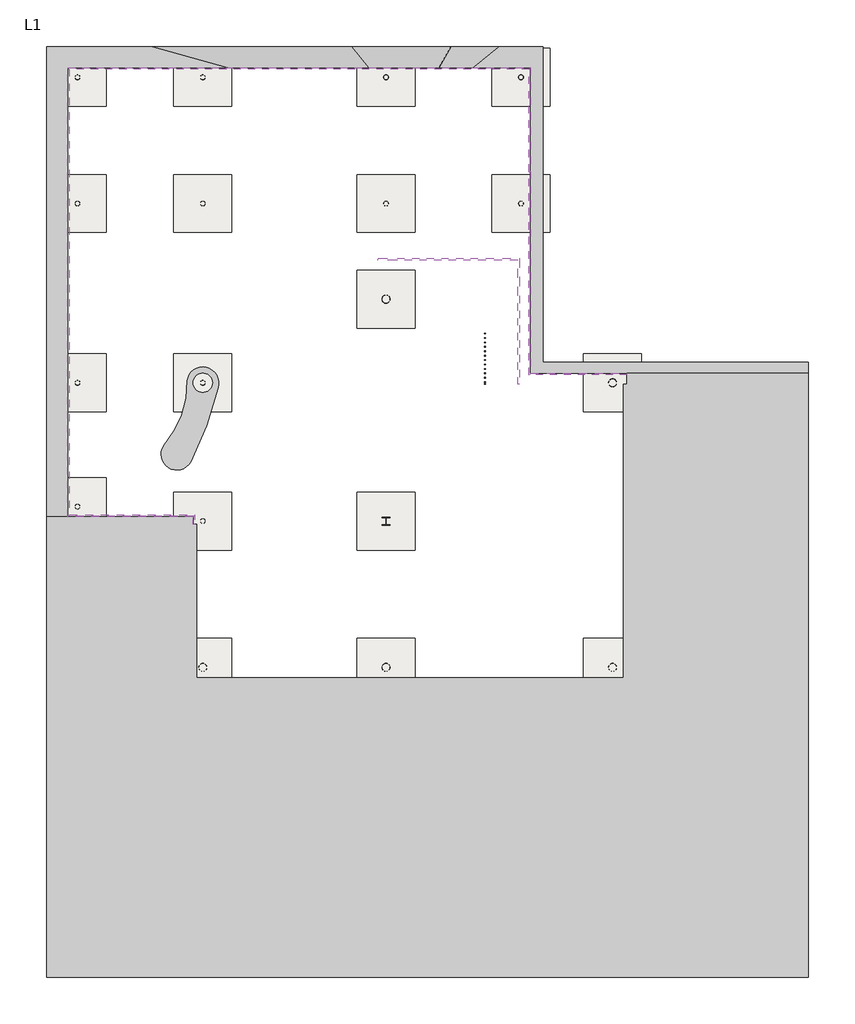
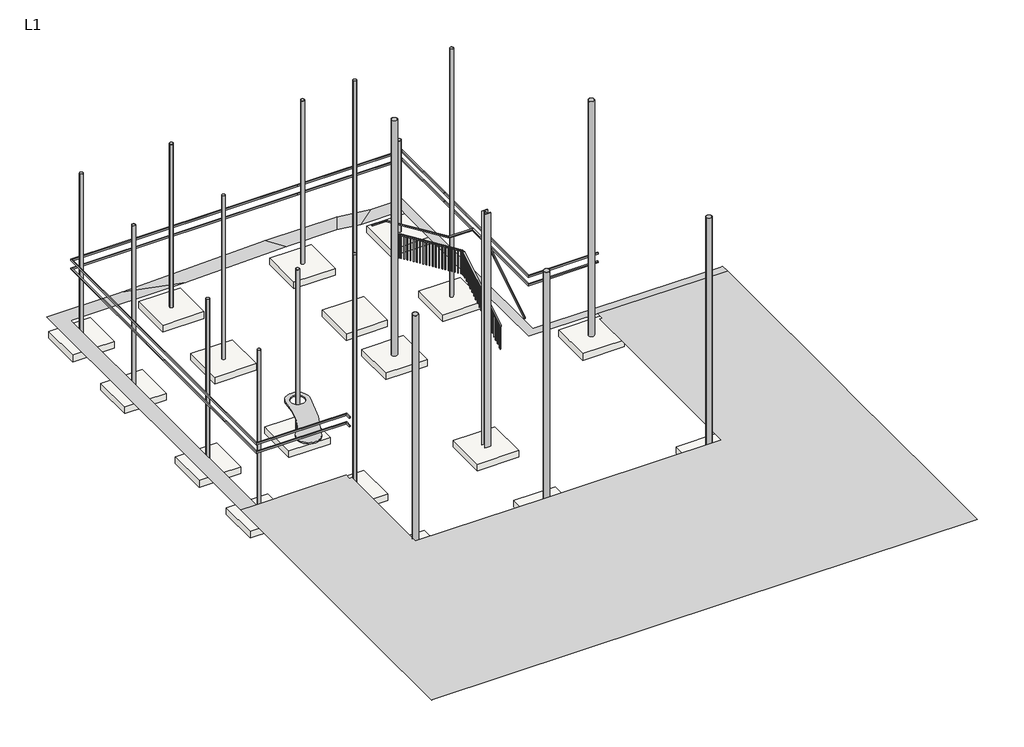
# One storey: 18 columns, 18 proxies, 18 slabs, 2 railings, 1 furniture element.
"""IFC4 building model written with IfcOpenShell, lengths in millimetres."""

from ifc_helpers import new_model, si_unit, frame, origin, place, context, project, spatial, polyline, outline, extrude, triangles, transform, mapped, element, save
from components import hss_round_hollow_structural_section_column_hss10x0_375_e5a783f9, hss_round_hollow_structural_section_column_hss6x0_375_dd265ae1, hss_round_hollow_structural_section_column_hss6x0_375_0e3342be, hss_round_hollow_structural_section_column_hss6x0_375_fb263522, hss_round_hollow_structural_section_column_hss6x0_375_acaf1047, w_wide_flange_column_w10x49_891e5d90, reception_desk_reception_desk_e332c73f, railing_1100mm_f1d3f54a, railing_1100mm_wall_hosted_fa47f578, footing_rectangular_cf6_0_e8c3e57f

model = new_model("IFC4")

# Units and contexts
model_context = context("Model", 3, world=origin())
ifc_project = project(units=[si_unit("LENGTHUNIT", "METRE", prefix="MILLI")], contexts=[model_context])

# Site, building, storey
site = spatial("IfcSite", under=ifc_project)
building = spatial("IfcBuilding", under=site)
storey = spatial("IfcBuildingStorey", under=building, Name="L1", Elevation=45720.0)

# Proxies
placement = place(None, origin())
element("IfcBuildingElementProxy", 1, Name="Building Element Proxy", at=placement, inside=storey, context=model_context, shape_type="Tessellation", body=[
    triangles([(-14938.2288849, -3075.3747826, 45769.6388306), (-14264.2316528, -3075.3747826, 45772.2107666), (-14264.2316528, -1088.5216393, 45778.68479), (-14264.2316528, 2184.8701263, 45787.4563477), (-14264.2316528, 4251.2335327, 45789.9538696), (-14264.2316528, 11107.3499268, 45774.0618164), (-9208.7803482, 11107.3499268, 45770.8015503), (-4742.1724617, 11107.3499268, 45897.1612793), (-2525.7676323, 11107.3499268, 45901.3656738), (-1455.9032845, 11107.3499268, 45774.2338989), (366.1687105, 11107.3499268, 45771.5596436), (366.1687105, 10915.3581573, 45770.8015503), (366.1687105, 8743.3482925, 45756.3838257), (366.1687105, 4976.9898148, 45776.9360596), (366.1687105, 3074.1085808, 45782.2008545), (366.1687105, 1461.1977287, 45780.1312134), (366.1687105, 1450.7640633, 45780.0847046), (377.9066568, 1450.7640633, 45780.070752), (3414.1686378, 1450.7640633, 45768.5226196), (4502.3618088, 1450.7640633, 45764.3833374), (9140.9711151, 1450.7640633, 45739.3616089), (9140.9711151, 1803.1890633, 45738.3849243), (3604.4020844, 1803.1890633, 45768.2528687), (758.9712605, 1803.1890633, 45779.0754639), (758.9712605, 2919.9441536, 45780.5125854), (758.9712605, 5052.8747177, 45774.6059692), (758.9712605, 8665.1617859, 45754.8955444), (758.9712605, 11061.46203, 45770.8015503), (758.9712605, 11773.3104401, 45773.6106812), (-634.5518927, 11773.3104401, 45775.6570679), (-2147.8218063, 11773.3104401, 45955.4833008), (-5282.8159149, 11773.3104401, 45949.5301758), (-11600.6105164, 11773.3104401, 45770.8015503), (-14938.2288849, 11773.3104401, 45772.9549072), (-14938.2288849, 5032.5556091, 45788.5772095), (-14938.2288849, 2511.0714363, 45785.5262329), (-14938.2288849, -1483.2915836, 45774.8292114)], [[37, 1, 2], [35, 36, 5], [37, 3, 36], [4, 36, 3], [7, 33, 6], [5, 36, 4], [3, 37, 2], [5, 6, 35], [33, 34, 6], [7, 32, 33], [6, 34, 35], [8, 9, 31], [31, 32, 8], [31, 9, 10], [10, 30, 31], [8, 32, 7], [17, 18, 16], [16, 24, 15], [24, 16, 18], [18, 19, 24], [20, 21, 22], [20, 23, 19], [23, 20, 22], [19, 23, 24], [13, 14, 27], [30, 10, 11], [12, 13, 27], [11, 12, 28], [14, 15, 26], [25, 26, 15], [29, 11, 28], [12, 27, 28], [14, 26, 27], [15, 24, 25], [11, 29, 30]], closed=False),
])
element("IfcBuildingElementProxy", 2, Name="Building Element Proxy", at=placement, inside=storey, context=model_context, shape_type="Tessellation", body=[
    triangles([(-14938.2288849, -17638.8082306, 45732.6782959), (-14928.8248077, -17638.8082306, 45732.7015503), (1262.9813393, -17638.8082306, 45732.7015503), (9140.9711151, -17638.8082306, 45727.6692993), (9140.9711151, -14295.842514, 45732.7015503), (9140.9711151, -8053.5514435, 45732.7015503), (9140.9711151, -7307.9707901, 45732.7015503), (9140.9711151, -6338.6264694, 45736.7292114), (9140.9711151, -369.7655477, 45744.4031616), (9140.9711151, 1450.7640633, 45739.3616089), (4502.3618088, 1450.7640633, 45764.3833374), (3414.1686378, 1450.7640633, 45768.5226196), (3414.1686378, 1100.7639879, 45768.0714844), (3301.4563316, 1100.7639879, 45768.5040161), (3301.4563316, -1147.9467184, 45765.6111694), (3301.4563316, -8172.8371857, 45736.4176025), (-2489.5785622, -8172.8371857, 45743.6683228), (-4408.8669342, -8172.8371857, 45747.1471802), (-10189.1187653, -8172.8371857, 45752.5747559), (-10189.1187653, -3321.4373795, 45775.8942627), (-10301.8316528, -3321.4373795, 45776.0012329), (-10301.8316528, -3075.3747826, 45777.1825562), (-12435.5397858, -3075.3747826, 45779.187085), (-14264.2316528, -3075.3747826, 45772.2107666), (-14938.2288849, -3075.3747826, 45769.6388306), (-14938.2288849, -10756.0423004, 45744.6124512), (-14938.2288849, -13234.14104, 45732.7015503), (-14938.2288849, -17593.1110199, 45732.7015503), (-2407.4488369, -10787.3020203, 45732.7015503)], [[19, 27, 29], [2, 28, 1], [26, 27, 19], [27, 28, 29], [29, 17, 18], [29, 28, 2], [29, 18, 19], [25, 26, 24], [23, 24, 19], [21, 19, 20], [19, 21, 23], [21, 22, 23], [26, 19, 24], [29, 3, 16], [3, 29, 2], [16, 3, 5], [4, 5, 3], [6, 7, 16], [5, 6, 16], [16, 7, 8], [14, 15, 13], [12, 13, 11], [15, 11, 13], [9, 11, 15], [10, 11, 9], [9, 15, 8], [15, 16, 8], [29, 16, 17]], closed=False),
])
element("IfcBuildingElementProxy", 3, Name="Reveals", at=placement, inside=storey, context=model_context, shape_type="SweptSolid", body=[
    extrude(outline(polyline([(-14213.4313072, -3024.5748862), (-14264.2313072, -3075.3748862), (-14264.2313072, 11107.3501138), (-14213.4313072, 11056.5501138), (-14213.4313072, -3024.5748862)])), frame((0.0, 0.0, 48570.0), z_axis=(0.0, 0.0, 1.0), x_axis=(1.0, 0.0, 0.0)), (0.0, 0.0, 1.0), 63.5),
])
element("IfcBuildingElementProxy", 4, Name="Reveals", at=placement, inside=storey, context=model_context, shape_type="SweptSolid", body=[
    extrude(outline(polyline([(-14213.4313072, 11056.5501138), (-14264.2313072, 11107.3501138), (-4286.5563072, 11107.3501138), (-4286.5563072, 11056.5501138), (-14213.4313072, 11056.5501138)])), frame((0.0, 0.0, 48570.0), z_axis=(0.0, 0.0, 1.0), x_axis=(1.0, 0.0, 0.0)), (0.0, 0.0, 1.0), 63.5),
])
element("IfcBuildingElementProxy", 5, Name="Reveals", at=placement, inside=storey, context=model_context, shape_type="SweptSolid", body=[
    extrude(outline(polyline([(315.3686928, 7819.4001138), (366.1686928, 7819.4001138), (366.1686928, 1450.7640027), (315.3686928, 1399.9640027), (315.3686928, 7819.4001138)])), frame((0.0, 0.0, 48570.0), z_axis=(0.0, 0.0, 1.0), x_axis=(1.0, 0.0, 0.0)), (0.0, 0.0, 1.0), 63.5),
])
element("IfcBuildingElementProxy", 6, Name="Reveals", at=placement, inside=storey, context=model_context, shape_type="SweptSolid", body=[
    extrude(outline(polyline([(315.3686928, 1399.9640027), (366.1686928, 1450.7640027), (3414.1686928, 1450.7640027), (3414.1686928, 1399.9640027), (315.3686928, 1399.9640027)])), frame((0.0, 0.0, 48570.0), z_axis=(0.0, 0.0, 1.0), x_axis=(1.0, 0.0, 0.0)), (0.0, 0.0, 1.0), 63.5),
])
element("IfcBuildingElementProxy", 7, Name="Reveals", at=placement, inside=storey, context=model_context, shape_type="SweptSolid", body=[
    extrude(outline(polyline([(-10251.0313072, -3321.4373862), (-10301.8313072, -3321.4373862), (-10301.8313072, -3075.3748862), (-10251.0313072, -3024.5748862), (-10251.0313072, -3321.4373862)])), frame((0.0, 0.0, 48570.0), z_axis=(0.0, 0.0, 1.0), x_axis=(1.0, 0.0, 0.0)), (0.0, 0.0, 1.0), 63.5),
])
element("IfcBuildingElementProxy", 8, Name="Reveals", at=placement, inside=storey, context=model_context, shape_type="SweptSolid", body=[
    extrude(outline(polyline([(-10251.0313072, -3024.5748862), (-10301.8313072, -3075.3748862), (-14264.2313072, -3075.3748862), (-14213.4313072, -3024.5748862), (-10251.0313072, -3024.5748862)])), frame((0.0, 0.0, 48570.0), z_axis=(0.0, 0.0, 1.0), x_axis=(1.0, 0.0, 0.0)), (0.0, 0.0, 1.0), 63.5),
])
element("IfcBuildingElementProxy", 9, Name="Reveals", at=placement, inside=storey, context=model_context, shape_type="SweptSolid", body=[
    extrude(outline(polyline([(-14213.4313072, -3024.5748862), (-14264.2313072, -3075.3748862), (-14264.2313072, 11107.3501138), (-14213.4313072, 11056.5501138), (-14213.4313072, -3024.5748862)])), frame((0.0, 0.0, 48170.0), z_axis=(0.0, 0.0, 1.0), x_axis=(1.0, 0.0, 0.0)), (0.0, 0.0, 1.0), 63.5),
])
element("IfcBuildingElementProxy", 10, Name="Reveals", at=placement, inside=storey, context=model_context, shape_type="SweptSolid", body=[
    extrude(outline(polyline([(-14213.4313072, 11056.5501138), (-14264.2313072, 11107.3501138), (-4286.5563072, 11107.3501138), (-4286.5563072, 11056.5501138), (-14213.4313072, 11056.5501138)])), frame((0.0, 0.0, 48170.0), z_axis=(0.0, 0.0, 1.0), x_axis=(1.0, 0.0, 0.0)), (0.0, 0.0, 1.0), 63.5),
])
element("IfcBuildingElementProxy", 11, Name="Reveals", at=placement, inside=storey, context=model_context, shape_type="SweptSolid", body=[
    extrude(outline(polyline([(315.3686928, 7819.4001138), (366.1686928, 7819.4001138), (366.1686928, 1450.7640027), (315.3686928, 1399.9640027), (315.3686928, 7819.4001138)])), frame((0.0, 0.0, 48170.0), z_axis=(0.0, 0.0, 1.0), x_axis=(1.0, 0.0, 0.0)), (0.0, 0.0, 1.0), 63.5),
])
element("IfcBuildingElementProxy", 12, Name="Reveals", at=placement, inside=storey, context=model_context, shape_type="SweptSolid", body=[
    extrude(outline(polyline([(315.3686928, 1399.9640027), (366.1686928, 1450.7640027), (3414.1686928, 1450.7640027), (3414.1686928, 1399.9640027), (315.3686928, 1399.9640027)])), frame((0.0, 0.0, 48170.0), z_axis=(0.0, 0.0, 1.0), x_axis=(1.0, 0.0, 0.0)), (0.0, 0.0, 1.0), 63.5),
])
element("IfcBuildingElementProxy", 13, Name="Reveals", at=placement, inside=storey, context=model_context, shape_type="SweptSolid", body=[
    extrude(outline(polyline([(-10251.0313072, -3321.4373862), (-10301.8313072, -3321.4373862), (-10301.8313072, -3075.3748862), (-10251.0313072, -3024.5748862), (-10251.0313072, -3321.4373862)])), frame((0.0, 0.0, 48170.0), z_axis=(0.0, 0.0, 1.0), x_axis=(1.0, 0.0, 0.0)), (0.0, 0.0, 1.0), 63.5),
])
element("IfcBuildingElementProxy", 14, Name="Reveals", at=placement, inside=storey, context=model_context, shape_type="SweptSolid", body=[
    extrude(outline(polyline([(-10251.0313072, -3024.5748862), (-10301.8313072, -3075.3748862), (-14264.2313072, -3075.3748862), (-14213.4313072, -3024.5748862), (-10251.0313072, -3024.5748862)])), frame((0.0, 0.0, 48170.0), z_axis=(0.0, 0.0, 1.0), x_axis=(1.0, 0.0, 0.0)), (0.0, 0.0, 1.0), 63.5),
])
element("IfcBuildingElementProxy", 15, Name="Reveals", at=placement, inside=storey, context=model_context, shape_type="SweptSolid", body=[
    extrude(outline(polyline([(-4286.5563072, 11056.5501138), (-4286.5563072, 11107.3501138), (366.1686928, 11107.3501138), (315.3686928, 11056.5501138), (-4286.5563072, 11056.5501138)])), frame((0.0, 0.0, 48570.0), z_axis=(0.0, 0.0, 1.0), x_axis=(1.0, 0.0, 0.0)), (0.0, 0.0, 1.0), 63.5),
])
element("IfcBuildingElementProxy", 16, Name="Reveals", at=placement, inside=storey, context=model_context, shape_type="SweptSolid", body=[
    extrude(outline(polyline([(315.3686928, 11056.5501138), (366.1686928, 11107.3501138), (366.1686928, 7819.4001138), (315.3686928, 7819.4001138), (315.3686928, 11056.5501138)])), frame((0.0, 0.0, 48570.0), z_axis=(0.0, 0.0, 1.0), x_axis=(1.0, 0.0, 0.0)), (0.0, 0.0, 1.0), 63.5),
])
element("IfcBuildingElementProxy", 17, Name="Reveals", at=placement, inside=storey, context=model_context, shape_type="SweptSolid", body=[
    extrude(outline(polyline([(-4286.5563072, 11056.5501138), (-4286.5563072, 11107.3501138), (366.1686928, 11107.3501138), (315.3686928, 11056.5501138), (-4286.5563072, 11056.5501138)])), frame((0.0, 0.0, 48170.0), z_axis=(0.0, 0.0, 1.0), x_axis=(1.0, 0.0, 0.0)), (0.0, 0.0, 1.0), 63.5),
])
element("IfcBuildingElementProxy", 18, Name="Reveals", at=placement, inside=storey, context=model_context, shape_type="SweptSolid", body=[
    extrude(outline(polyline([(315.3686928, 11056.5501138), (366.1686928, 11107.3501138), (366.1686928, 7819.4001138), (315.3686928, 7819.4001138), (315.3686928, 11056.5501138)])), frame((0.0, 0.0, 48170.0), z_axis=(0.0, 0.0, 1.0), x_axis=(1.0, 0.0, 0.0)), (0.0, 0.0, 1.0), 63.5),
])

# Columns
hss_round_hollow_structural_section_column_hss10x0_375_shape = hss_round_hollow_structural_section_column_hss10x0_375_e5a783f9(model_context)
element("IfcColumn", 19, ObjectType="HSS-Round Hollow Structural Section-Column : HSS10X0.375", at=placement, inside=storey, context=model_context, shape_type="MappedRepresentation", body=[
    mapped(hss_round_hollow_structural_section_column_hss10x0_375_shape, transform((-9997.0313072, -7842.5381675, 0.0), x_axis=(-1.0, 0.0, 0.0), y_axis=(0.0, -1.0, 0.0), z_axis=(0.0, 0.0, 1.0))),
])
element("IfcColumn", 20, ObjectType="HSS-Round Hollow Structural Section-Column : HSS10X0.375", at=placement, inside=storey, context=model_context, shape_type="MappedRepresentation", body=[
    mapped(hss_round_hollow_structural_section_column_hss10x0_375_shape, transform((-4205.8313072, 3790.6992317, 0.0), x_axis=(-1.0, 0.0, 0.0), y_axis=(0.0, -1.0, 0.0), z_axis=(0.0, 0.0, 1.0))),
])
element("IfcColumn", 21, ObjectType="HSS-Round Hollow Structural Section-Column : HSS10X0.375", at=placement, inside=storey, context=model_context, shape_type="MappedRepresentation", body=[
    mapped(hss_round_hollow_structural_section_column_hss10x0_375_shape, transform((-4205.8313072, -7842.5381675, 0.0), x_axis=(-1.0, 0.0, 0.0), y_axis=(0.0, -1.0, 0.0), z_axis=(0.0, 0.0, 1.0))),
])
element("IfcColumn", 22, ObjectType="HSS-Round Hollow Structural Section-Column : HSS10X0.375", at=placement, inside=storey, context=model_context, shape_type="MappedRepresentation", body=[
    mapped(hss_round_hollow_structural_section_column_hss10x0_375_shape, transform((2956.9686928, 1149.0992317, 0.0), x_axis=(-1.0, 0.0, 0.0), y_axis=(0.0, -1.0, 0.0), z_axis=(0.0, 0.0, 1.0))),
])
element("IfcColumn", 23, ObjectType="HSS-Round Hollow Structural Section-Column : HSS10X0.375", at=placement, inside=storey, context=model_context, shape_type="MappedRepresentation", body=[
    mapped(hss_round_hollow_structural_section_column_hss10x0_375_shape, transform((2956.9686928, -7842.5381675, 0.0), x_axis=(-1.0, 0.0, 0.0), y_axis=(0.0, -1.0, 0.0), z_axis=(0.0, 0.0, 1.0))),
])
hss_round_hollow_structural_section_column_hss6x0_375_shape = hss_round_hollow_structural_section_column_hss6x0_375_dd265ae1(model_context)
element("IfcColumn", 24, ObjectType="HSS-Round Hollow Structural Section-Column : HSS6X0.375", at=placement, inside=storey, context=model_context, shape_type="MappedRepresentation", body=[
    mapped(hss_round_hollow_structural_section_column_hss6x0_375_shape, transform((-13959.4313072, 10801.0618325, 0.0), x_axis=(-1.0, 0.0, 0.0), y_axis=(0.0, -1.0, 0.0), z_axis=(0.0, 0.0, 1.0))),
])
element("IfcColumn", 25, ObjectType="HSS-Round Hollow Structural Section-Column : HSS6X0.375", at=placement, inside=storey, context=model_context, shape_type="MappedRepresentation", body=[
    mapped(hss_round_hollow_structural_section_column_hss6x0_375_shape, transform((-13959.4313072, 1149.0992317, 0.0), x_axis=(-1.0, 0.0, 0.0), y_axis=(0.0, -1.0, 0.0), z_axis=(0.0, 0.0, 1.0))),
])
element("IfcColumn", 26, ObjectType="HSS-Round Hollow Structural Section-Column : HSS6X0.375", at=placement, inside=storey, context=model_context, shape_type="MappedRepresentation", body=[
    mapped(hss_round_hollow_structural_section_column_hss6x0_375_shape, transform((-13959.4313072, -2762.5381675, 0.0), x_axis=(-1.0, 0.0, 0.0), y_axis=(0.0, -1.0, 0.0), z_axis=(0.0, 0.0, 1.0))),
])
element("IfcColumn", 27, ObjectType="HSS-Round Hollow Structural Section-Column : HSS6X0.375", at=placement, inside=storey, context=model_context, shape_type="MappedRepresentation", body=[
    mapped(hss_round_hollow_structural_section_column_hss6x0_375_shape, transform((-9997.0313072, 10801.0618325, 0.0), x_axis=(-1.0, 0.0, 0.0), y_axis=(0.0, -1.0, 0.0), z_axis=(0.0, 0.0, 1.0))),
])
element("IfcColumn", 28, ObjectType="HSS-Round Hollow Structural Section-Column : HSS6X0.375", at=placement, inside=storey, context=model_context, shape_type="MappedRepresentation", body=[
    mapped(hss_round_hollow_structural_section_column_hss6x0_375_shape, transform((-9997.0313072, 1149.0992317, 0.0), x_axis=(-1.0, 0.0, 0.0), y_axis=(0.0, -1.0, 0.0), z_axis=(0.0, 0.0, 1.0))),
])
element("IfcColumn", 29, ObjectType="HSS-Round Hollow Structural Section-Column : HSS6X0.375", at=placement, inside=storey, context=model_context, shape_type="MappedRepresentation", body=[
    mapped(hss_round_hollow_structural_section_column_hss6x0_375_shape, transform((-4205.8313072, 10801.0618325, 0.0), x_axis=(-1.0, 0.0, 0.0), y_axis=(0.0, -1.0, 0.0), z_axis=(0.0, 0.0, 1.0))),
])
element("IfcColumn", 30, ObjectType="HSS-Round Hollow Structural Section-Column : HSS6X0.375", at=placement, inside=storey, context=model_context, shape_type="MappedRepresentation", body=[
    mapped(hss_round_hollow_structural_section_column_hss6x0_375_shape, transform((-13959.4313072, 6813.2618325, 0.0), x_axis=(-1.0, 0.0, 0.0), y_axis=(0.0, -1.0, 0.0), z_axis=(0.0, 0.0, 1.0))),
])
element("IfcColumn", 31, ObjectType="HSS-Round Hollow Structural Section-Column : HSS6X0.375", at=placement, inside=storey, context=model_context, shape_type="MappedRepresentation", body=[
    mapped(hss_round_hollow_structural_section_column_hss6x0_375_shape, transform((-9997.0313072, 6813.2618325, 0.0), x_axis=(-1.0, 0.0, 0.0), y_axis=(0.0, -1.0, 0.0), z_axis=(0.0, 0.0, 1.0))),
])
hss_round_hollow_structural_section_column_hss6x0_375_2_shape = hss_round_hollow_structural_section_column_hss6x0_375_0e3342be(model_context)
element("IfcColumn", 32, ObjectType="HSS-Round Hollow Structural Section-Column : HSS6X0.375", at=placement, inside=storey, context=model_context, shape_type="MappedRepresentation", body=[
    mapped(hss_round_hollow_structural_section_column_hss6x0_375_2_shape, transform((61.3686928, 10801.0618325, 0.0), x_axis=(-1.0, 0.0, 0.0), y_axis=(0.0, -1.0, 0.0), z_axis=(0.0, 0.0, 1.0))),
])
hss_round_hollow_structural_section_column_hss6x0_375_3_shape = hss_round_hollow_structural_section_column_hss6x0_375_fb263522(model_context)
element("IfcColumn", 33, ObjectType="HSS-Round Hollow Structural Section-Column : HSS6X0.375", at=placement, inside=storey, context=model_context, shape_type="MappedRepresentation", body=[
    mapped(hss_round_hollow_structural_section_column_hss6x0_375_3_shape, transform((-4205.8313072, 6813.2618325, 0.0), x_axis=(-1.0, 0.0, 0.0), y_axis=(0.0, -1.0, 0.0), z_axis=(0.0, 0.0, 1.0))),
])
element("IfcColumn", 34, ObjectType="HSS-Round Hollow Structural Section-Column : HSS6X0.375", at=placement, inside=storey, context=model_context, shape_type="MappedRepresentation", body=[
    mapped(hss_round_hollow_structural_section_column_hss6x0_375_3_shape, transform((-9997.0313072, -3219.7007683, 0.0), x_axis=(-1.0, 0.0, 0.0), y_axis=(0.0, -1.0, 0.0), z_axis=(0.0, 0.0, 1.0))),
])
hss_round_hollow_structural_section_column_hss6x0_375_4_shape = hss_round_hollow_structural_section_column_hss6x0_375_acaf1047(model_context)
element("IfcColumn", 35, ObjectType="HSS-Round Hollow Structural Section-Column : HSS6X0.375", at=placement, inside=storey, context=model_context, shape_type="MappedRepresentation", body=[
    mapped(hss_round_hollow_structural_section_column_hss6x0_375_4_shape, transform((61.3686928, 6813.2618325, 0.0), x_axis=(-1.0, 0.0, 0.0), y_axis=(0.0, -1.0, 0.0), z_axis=(0.0, 0.0, 1.0))),
])
w_wide_flange_column_w10x49_shape = w_wide_flange_column_w10x49_891e5d90(model_context)
element("IfcColumn", 36, ObjectType="W-Wide Flange-Column : W10X49", at=placement, inside=storey, context=model_context, shape_type="MappedRepresentation", body=[
    mapped(w_wide_flange_column_w10x49_shape, transform((-4205.8313072, -3219.7007683, 0.0), x_axis=(-1.0, 0.0, 0.0), y_axis=(0.0, -1.0, 0.0), z_axis=(0.0, 0.0, 1.0))),
])

# Furniture
reception_desk_reception_desk_shape = reception_desk_reception_desk_e332c73f(model_context)
element("IfcFurniture", 37, ObjectType="Reception Desk : Reception Desk", at=placement, inside=storey, context=model_context, shape_type="MappedRepresentation", body=[
    mapped(reception_desk_reception_desk_shape, transform((0.0, 0.0, 0.0), x_axis=(1.0, 0.0, 0.0), y_axis=(0.0, 1.0, 0.0), z_axis=(0.0, 0.0, 1.0))),
])

# Railings
railing_1100mm_shape = railing_1100mm_f1d3f54a(model_context)
element("IfcRailing", 38, ObjectType="1100mm", at=placement, inside=storey, context=model_context, shape_type="MappedRepresentation", body=[
    mapped(railing_1100mm_shape, transform((0.0, 0.0, 0.0), x_axis=(1.0, 0.0, 0.0), y_axis=(0.0, 1.0, 0.0), z_axis=(0.0, 0.0, 1.0))),
])
railing_1100mm_wall_hosted_shape = railing_1100mm_wall_hosted_fa47f578(model_context)
element("IfcRailing", 39, ObjectType="1100mm Wall Hosted", at=placement, inside=storey, context=model_context, shape_type="MappedRepresentation", body=[
    mapped(railing_1100mm_wall_hosted_shape, transform((0.0, 0.0, 0.0), x_axis=(1.0, 0.0, 0.0), y_axis=(0.0, 1.0, 0.0), z_axis=(0.0, 0.0, 1.0))),
])

# Slabs
footing_rectangular_cf6_0_shape = footing_rectangular_cf6_0_e8c3e57f(model_context)
element("IfcSlab", 40, ObjectType="Footing-Rectangular : CF6.0", at=placement, inside=storey, context=model_context, shape_type="MappedRepresentation", body=[
    mapped(footing_rectangular_cf6_0_shape, transform((-13959.4313072, 10801.0618325, 45110.4), x_axis=(-1.0, 0.0, 0.0), y_axis=(0.0, -1.0, 0.0), z_axis=(0.0, 0.0, 1.0))),
])
element("IfcSlab", 41, ObjectType="Footing-Rectangular : CF6.0", at=placement, inside=storey, context=model_context, shape_type="MappedRepresentation", body=[
    mapped(footing_rectangular_cf6_0_shape, transform((-13959.4313072, 1149.0992317, 45110.4), x_axis=(-1.0, 0.0, 0.0), y_axis=(0.0, -1.0, 0.0), z_axis=(0.0, 0.0, 1.0))),
])
element("IfcSlab", 42, ObjectType="Footing-Rectangular : CF6.0", at=placement, inside=storey, context=model_context, shape_type="MappedRepresentation", body=[
    mapped(footing_rectangular_cf6_0_shape, transform((-13959.4313072, -2762.5381675, 45110.4), x_axis=(-1.0, 0.0, 0.0), y_axis=(0.0, -1.0, 0.0), z_axis=(0.0, 0.0, 1.0))),
])
element("IfcSlab", 43, ObjectType="Footing-Rectangular : CF6.0", at=placement, inside=storey, context=model_context, shape_type="MappedRepresentation", body=[
    mapped(footing_rectangular_cf6_0_shape, transform((-9997.0313072, 10801.0618325, 45110.4), x_axis=(-1.0, 0.0, 0.0), y_axis=(0.0, -1.0, 0.0), z_axis=(0.0, 0.0, 1.0))),
])
element("IfcSlab", 44, ObjectType="Footing-Rectangular : CF6.0", at=placement, inside=storey, context=model_context, shape_type="MappedRepresentation", body=[
    mapped(footing_rectangular_cf6_0_shape, transform((-9997.0313072, 1149.0992317, 45110.4), x_axis=(-1.0, 0.0, 0.0), y_axis=(0.0, -1.0, 0.0), z_axis=(0.0, 0.0, 1.0))),
])
element("IfcSlab", 45, ObjectType="Footing-Rectangular : CF6.0", at=placement, inside=storey, context=model_context, shape_type="MappedRepresentation", body=[
    mapped(footing_rectangular_cf6_0_shape, transform((-9997.0313072, -7842.5381675, 45110.4), x_axis=(-1.0, 0.0, 0.0), y_axis=(0.0, -1.0, 0.0), z_axis=(0.0, 0.0, 1.0))),
])
element("IfcSlab", 46, ObjectType="Footing-Rectangular : CF6.0", at=placement, inside=storey, context=model_context, shape_type="MappedRepresentation", body=[
    mapped(footing_rectangular_cf6_0_shape, transform((-4205.8313072, 10801.0618325, 45110.4), x_axis=(-1.0, 0.0, 0.0), y_axis=(0.0, -1.0, 0.0), z_axis=(0.0, 0.0, 1.0))),
])
element("IfcSlab", 47, ObjectType="Footing-Rectangular : CF6.0", at=placement, inside=storey, context=model_context, shape_type="MappedRepresentation", body=[
    mapped(footing_rectangular_cf6_0_shape, transform((-4205.8313072, 3790.6992317, 45110.4), x_axis=(-1.0, 0.0, 0.0), y_axis=(0.0, -1.0, 0.0), z_axis=(0.0, 0.0, 1.0))),
])
element("IfcSlab", 48, ObjectType="Footing-Rectangular : CF6.0", at=placement, inside=storey, context=model_context, shape_type="MappedRepresentation", body=[
    mapped(footing_rectangular_cf6_0_shape, transform((-4205.8313072, -7842.5381675, 45110.4), x_axis=(-1.0, 0.0, 0.0), y_axis=(0.0, -1.0, 0.0), z_axis=(0.0, 0.0, 1.0))),
])
element("IfcSlab", 49, ObjectType="Footing-Rectangular : CF6.0", at=placement, inside=storey, context=model_context, shape_type="MappedRepresentation", body=[
    mapped(footing_rectangular_cf6_0_shape, transform((61.3686928, 10801.0618325, 45110.4), x_axis=(-1.0, 0.0, 0.0), y_axis=(0.0, -1.0, 0.0), z_axis=(0.0, 0.0, 1.0))),
])
element("IfcSlab", 50, ObjectType="Footing-Rectangular : CF6.0", at=placement, inside=storey, context=model_context, shape_type="MappedRepresentation", body=[
    mapped(footing_rectangular_cf6_0_shape, transform((2956.9686928, 1149.0992317, 45110.4), x_axis=(-1.0, 0.0, 0.0), y_axis=(0.0, -1.0, 0.0), z_axis=(0.0, 0.0, 1.0))),
])
element("IfcSlab", 51, ObjectType="Footing-Rectangular : CF6.0", at=placement, inside=storey, context=model_context, shape_type="MappedRepresentation", body=[
    mapped(footing_rectangular_cf6_0_shape, transform((2956.9686928, -7842.5381675, 45110.4), x_axis=(-1.0, 0.0, 0.0), y_axis=(0.0, -1.0, 0.0), z_axis=(0.0, 0.0, 1.0))),
])
element("IfcSlab", 52, ObjectType="Footing-Rectangular : CF6.0", at=placement, inside=storey, context=model_context, shape_type="MappedRepresentation", body=[
    mapped(footing_rectangular_cf6_0_shape, transform((-13959.4313072, 6813.2618325, 45110.4), x_axis=(-1.0, 0.0, 0.0), y_axis=(0.0, -1.0, 0.0), z_axis=(0.0, 0.0, 1.0))),
])
element("IfcSlab", 53, ObjectType="Footing-Rectangular : CF6.0", at=placement, inside=storey, context=model_context, shape_type="MappedRepresentation", body=[
    mapped(footing_rectangular_cf6_0_shape, transform((-9997.0313072, 6813.2618325, 45110.4), x_axis=(-1.0, 0.0, 0.0), y_axis=(0.0, -1.0, 0.0), z_axis=(0.0, 0.0, 1.0))),
])
element("IfcSlab", 54, ObjectType="Footing-Rectangular : CF6.0", at=placement, inside=storey, context=model_context, shape_type="MappedRepresentation", body=[
    mapped(footing_rectangular_cf6_0_shape, transform((-4205.8313072, 6813.2618325, 45110.4), x_axis=(-1.0, 0.0, 0.0), y_axis=(0.0, -1.0, 0.0), z_axis=(0.0, 0.0, 1.0))),
])
element("IfcSlab", 55, ObjectType="Footing-Rectangular : CF6.0", at=placement, inside=storey, context=model_context, shape_type="MappedRepresentation", body=[
    mapped(footing_rectangular_cf6_0_shape, transform((61.3686928, 6813.2618325, 44500.8), x_axis=(-1.0, 0.0, 0.0), y_axis=(0.0, -1.0, 0.0), z_axis=(0.0, 0.0, 1.0))),
])
element("IfcSlab", 56, ObjectType="Footing-Rectangular : CF6.0", at=placement, inside=storey, context=model_context, shape_type="MappedRepresentation", body=[
    mapped(footing_rectangular_cf6_0_shape, transform((-9997.0313072, -3219.7007683, 45110.4), x_axis=(-1.0, 0.0, 0.0), y_axis=(0.0, -1.0, 0.0), z_axis=(0.0, 0.0, 1.0))),
])
element("IfcSlab", 57, ObjectType="Footing-Rectangular : CF6.0", at=placement, inside=storey, context=model_context, shape_type="MappedRepresentation", body=[
    mapped(footing_rectangular_cf6_0_shape, transform((-4205.8313072, -3219.7007683, 45110.4), x_axis=(-1.0, 0.0, 0.0), y_axis=(0.0, -1.0, 0.0), z_axis=(0.0, 0.0, 1.0))),
])

save(model, "model.ifc")
